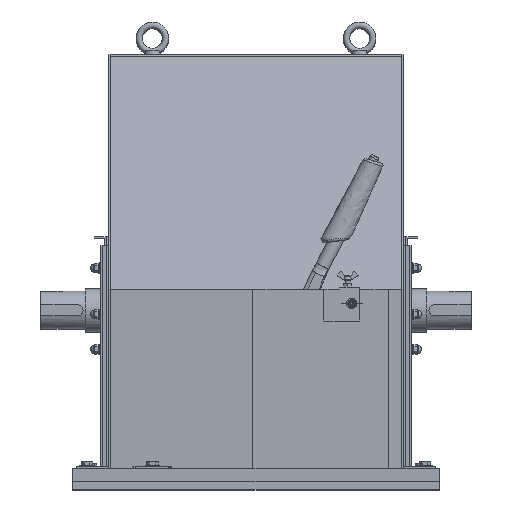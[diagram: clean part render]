
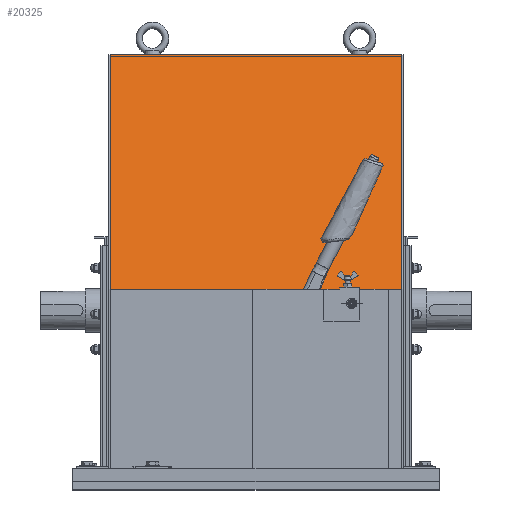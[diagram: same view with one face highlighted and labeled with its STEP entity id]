
A CAD part, top view. The second image highlights one B-rep face of the part: STEP entity #20325.
In plain terms, the highlighted planar face has unit normal (0, 0.322, 0.947).
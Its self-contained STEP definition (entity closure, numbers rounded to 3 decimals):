
#1744 = VERTEX_POINT ( 'NONE', #4919 ) ;
#1998 = DIRECTION ( 'NONE',  ( 0., -0.322, -0.947 ) ) ;
#2230 = CARTESIAN_POINT ( 'NONE',  ( 452.7, 26., 310. ) ) ;
#4649 = PLANE ( 'NONE',  #30068 ) ;
#4763 = ORIENTED_EDGE ( 'NONE', *, *, #7726, .T. ) ;
#4919 = CARTESIAN_POINT ( 'NONE',  ( 452.7, 320., 210. ) ) ;
#6116 = CARTESIAN_POINT ( 'NONE',  ( 452.7, 320., 210. ) ) ;
#7726 = EDGE_CURVE ( 'NONE', #18026, #26448, #19225, .T. ) ;
#8362 = EDGE_LOOP ( 'NONE', ( #4763, #37446, #23590, #15990 ) ) ;
#8782 = CARTESIAN_POINT ( 'NONE',  ( 87.3, 26., 310. ) ) ;
#8946 = EDGE_CURVE ( 'NONE', #9218, #26448, #18274, .T. ) ;
#9218 = VERTEX_POINT ( 'NONE', #11421 ) ;
#9334 = EDGE_CURVE ( 'NONE', #1744, #18026, #26605, .T. ) ;
#9419 = CARTESIAN_POINT ( 'NONE',  ( 87.3, 26., 310. ) ) ;
#10915 = LINE ( 'NONE', #2230, #22068 ) ;
#11416 = DIRECTION ( 'NONE',  ( 0., -0.947, 0.322 ) ) ;
#11421 = CARTESIAN_POINT ( 'NONE',  ( 452.7, 26., 310. ) ) ;
#14265 = VECTOR ( 'NONE', #11416, 1000. ) ;
#14393 = CARTESIAN_POINT ( 'NONE',  ( 452.7, 26., 310. ) ) ;
#15254 = DIRECTION ( 'NONE',  ( -1., 0., 0. ) ) ;
#15990 = ORIENTED_EDGE ( 'NONE', *, *, #9334, .T. ) ;
#18026 = VERTEX_POINT ( 'NONE', #20538 ) ;
#18274 = LINE ( 'NONE', #14393, #24923 ) ;
#19225 = LINE ( 'NONE', #8782, #14265 ) ;
#20325 = ADVANCED_FACE ( 'NONE', ( #21719 ), #4649, .F. ) ;
#20538 = CARTESIAN_POINT ( 'NONE',  ( 87.3, 320., 210. ) ) ;
#21719 = FACE_OUTER_BOUND ( 'NONE', #8362, .T. ) ;
#22068 = VECTOR ( 'NONE', #22506, 1000. ) ;
#22506 = DIRECTION ( 'NONE',  ( 0., -0.947, 0.322 ) ) ;
#23590 = ORIENTED_EDGE ( 'NONE', *, *, #27315, .F. ) ;
#24923 = VECTOR ( 'NONE', #15254, 1000. ) ;
#25576 = VECTOR ( 'NONE', #26433, 1000. ) ;
#26433 = DIRECTION ( 'NONE',  ( -1., 0., 0. ) ) ;
#26448 = VERTEX_POINT ( 'NONE', #9419 ) ;
#26605 = LINE ( 'NONE', #6116, #25576 ) ;
#27315 = EDGE_CURVE ( 'NONE', #1744, #9218, #10915, .T. ) ;
#27624 = DIRECTION ( 'NONE',  ( 0., 0.947, -0.322 ) ) ;
#30068 = AXIS2_PLACEMENT_3D ( 'NONE', #33314, #1998, #27624 ) ;
#33314 = CARTESIAN_POINT ( 'NONE',  ( 452.7, 26., 310. ) ) ;
#37446 = ORIENTED_EDGE ( 'NONE', *, *, #8946, .F. ) ;
